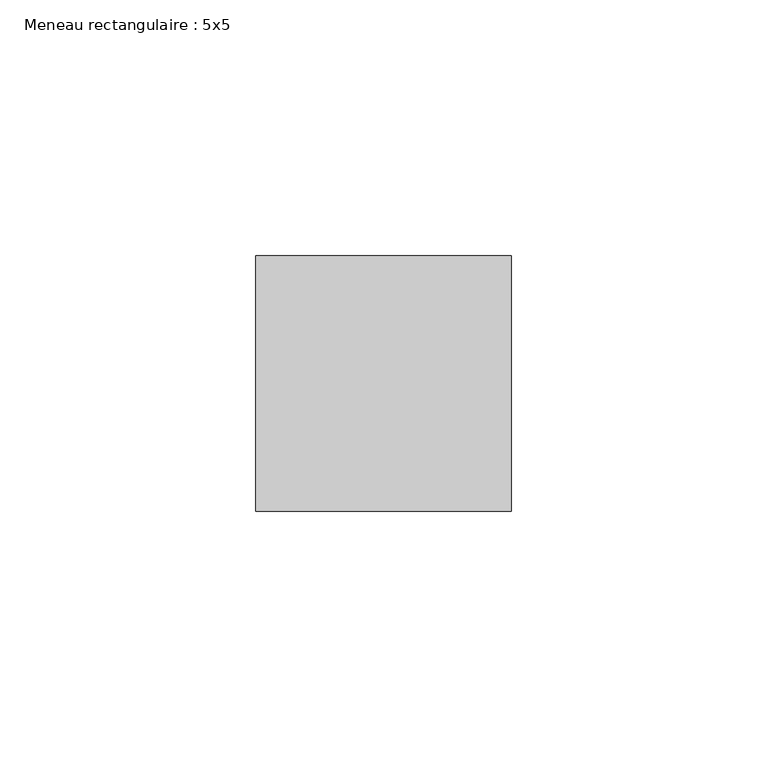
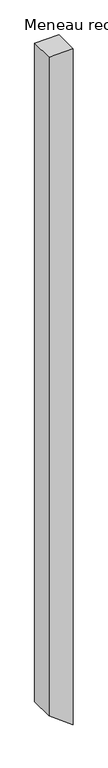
"""IFC4 building model written with IfcOpenShell, lengths in millimetres: member geometry, Meneau rectangulaire : 5x5."""

from ifc_helpers import new_model, si_unit, frame, origin, place, context, project, spatial, polyline, outline, extrude, source, transform, mapped, element, save


def meneau_rectangulaire_5x5_7106ca39(model_context):
    return source(origin(), model_context, "Body", "SweptSolid", [
        extrude(outline(polyline([(0.0, 0.0), (0.0, -50.0), (-1424.4413787, -50.0), (-1461.6429112, 0.0), (0.0, 0.0)])), frame((0.0, -25.0, 0.0), z_axis=(0.0, 1.0, 0.0), x_axis=(0.0, 0.0, 1.0)), (0.0, 0.0, 1.0), 50.0),
    ])


if __name__ == "__main__":
    model = new_model("IFC4")
    model_context = context("Model", 3, world=origin())
    ifc_project = project(units=[si_unit("LENGTHUNIT", "METRE", prefix="MILLI")], contexts=[model_context])
    site = spatial("IfcSite", under=ifc_project)
    building = spatial("IfcBuilding", under=site)
    placement = place(None, origin())
    meneau_rectangulaire_5x5_shape = meneau_rectangulaire_5x5_7106ca39(model_context)
    element("IfcMember", 1, ObjectType="Meneau rectangulaire : 5x5", at=placement, inside=building, context=model_context, shape_type="MappedRepresentation", body=[
        mapped(meneau_rectangulaire_5x5_shape, transform((0.0, 0.0, 0.0), x_axis=(1.0, 0.0, 0.0), y_axis=(0.0, 1.0, 0.0), z_axis=(0.0, 0.0, 1.0))),
    ])
    save(model, "model.ifc")
